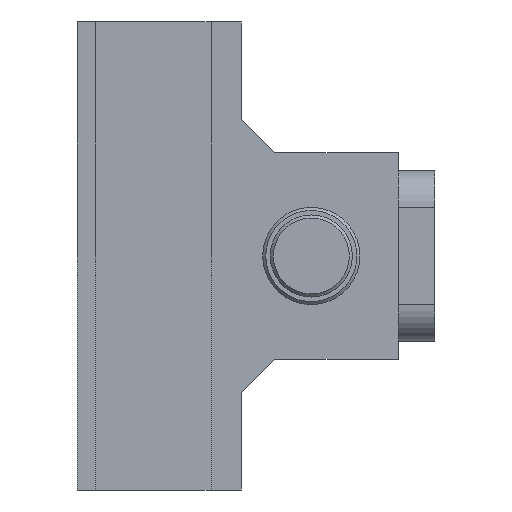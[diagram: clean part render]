
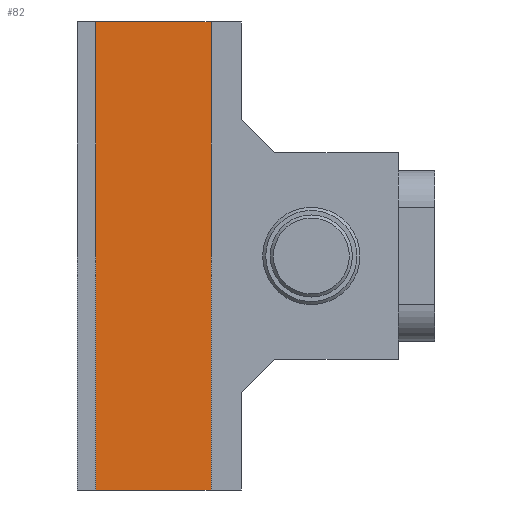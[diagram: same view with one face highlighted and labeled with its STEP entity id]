
A CAD part, left-side view. The second image highlights one B-rep face of the part: STEP entity #82.
In plain terms, the highlighted planar face has unit normal (-1, 0, 0).
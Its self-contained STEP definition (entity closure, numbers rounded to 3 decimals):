
#41 = DIRECTION ( 'NONE',  ( 0., -1., 0. ) ) ;
#55 = DIRECTION ( 'NONE',  ( 0., 0., -1. ) ) ;
#65 = ORIENTED_EDGE ( 'NONE', *, *, #2591, .T. ) ;
#82 = ADVANCED_FACE ( 'NONE', ( #2352 ), #1758, .F. ) ;
#129 = LINE ( 'NONE', #2548, #460 ) ;
#153 = EDGE_CURVE ( 'NONE', #1383, #2272, #277, .T. ) ;
#202 = CARTESIAN_POINT ( 'NONE',  ( -16.5, 62., 38.5 ) ) ;
#277 = LINE ( 'NONE', #2257, #1203 ) ;
#443 = CARTESIAN_POINT ( 'NONE',  ( -16.5, 62., 38.5 ) ) ;
#460 = VECTOR ( 'NONE', #55, 1000. ) ;
#504 = CARTESIAN_POINT ( 'NONE',  ( -16.5, 62., -38.5 ) ) ;
#533 = VECTOR ( 'NONE', #2355, 1000. ) ;
#747 = LINE ( 'NONE', #1553, #533 ) ;
#902 = VERTEX_POINT ( 'NONE', #1659 ) ;
#906 = EDGE_LOOP ( 'NONE', ( #65, #1502, #1146, #1720 ) ) ;
#983 = CARTESIAN_POINT ( 'NONE',  ( -16.5, 43., -38.5 ) ) ;
#1120 = DIRECTION ( 'NONE',  ( 0., 1., 0. ) ) ;
#1146 = ORIENTED_EDGE ( 'NONE', *, *, #1460, .F. ) ;
#1203 = VECTOR ( 'NONE', #2269, 1000. ) ;
#1364 = VECTOR ( 'NONE', #41, 1000. ) ;
#1373 = CARTESIAN_POINT ( 'NONE',  ( -16.5, 62., 38.5 ) ) ;
#1383 = VERTEX_POINT ( 'NONE', #504 ) ;
#1460 = EDGE_CURVE ( 'NONE', #902, #2272, #747, .T. ) ;
#1502 = ORIENTED_EDGE ( 'NONE', *, *, #153, .T. ) ;
#1553 = CARTESIAN_POINT ( 'NONE',  ( -16.5, 43., 38.5 ) ) ;
#1637 = LINE ( 'NONE', #202, #1364 ) ;
#1659 = CARTESIAN_POINT ( 'NONE',  ( -16.5, 43., 38.5 ) ) ;
#1720 = ORIENTED_EDGE ( 'NONE', *, *, #2023, .F. ) ;
#1758 = PLANE ( 'NONE',  #2165 ) ;
#2023 = EDGE_CURVE ( 'NONE', #2283, #902, #1637, .T. ) ;
#2165 = AXIS2_PLACEMENT_3D ( 'NONE', #443, #2507, #1120 ) ;
#2257 = CARTESIAN_POINT ( 'NONE',  ( -16.5, 62., -38.5 ) ) ;
#2269 = DIRECTION ( 'NONE',  ( 0., -1., 0. ) ) ;
#2272 = VERTEX_POINT ( 'NONE', #983 ) ;
#2283 = VERTEX_POINT ( 'NONE', #1373 ) ;
#2352 = FACE_OUTER_BOUND ( 'NONE', #906, .T. ) ;
#2355 = DIRECTION ( 'NONE',  ( 0., 0., -1. ) ) ;
#2507 = DIRECTION ( 'NONE',  ( 1., 0., 0. ) ) ;
#2548 = CARTESIAN_POINT ( 'NONE',  ( -16.5, 62., 38.5 ) ) ;
#2591 = EDGE_CURVE ( 'NONE', #2283, #1383, #129, .T. ) ;
